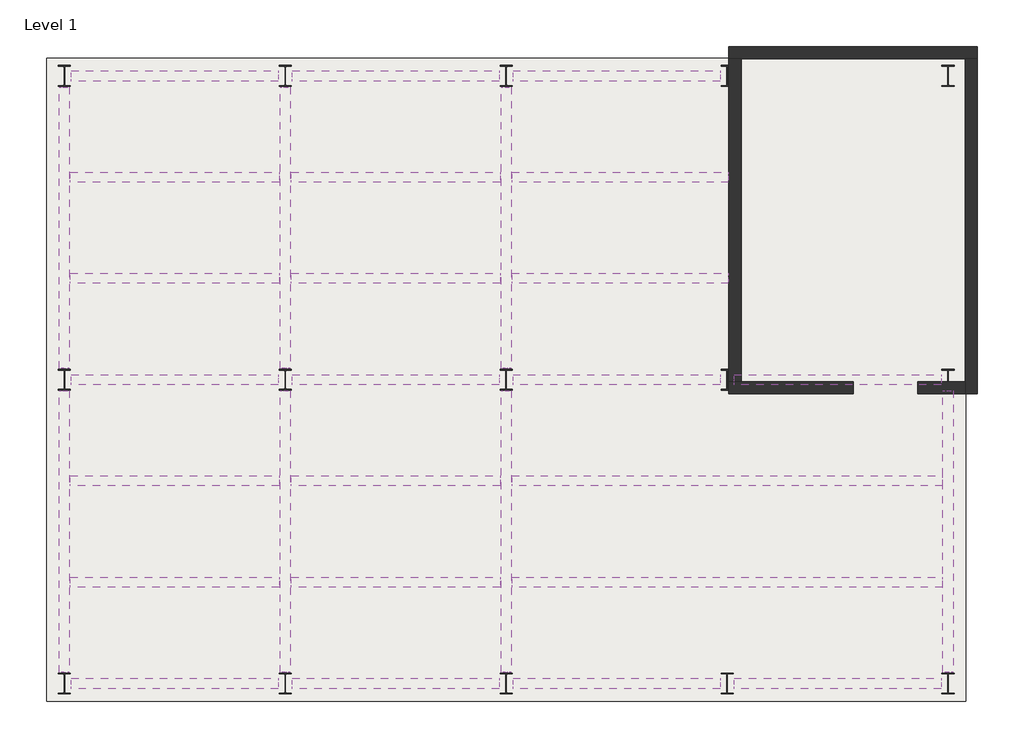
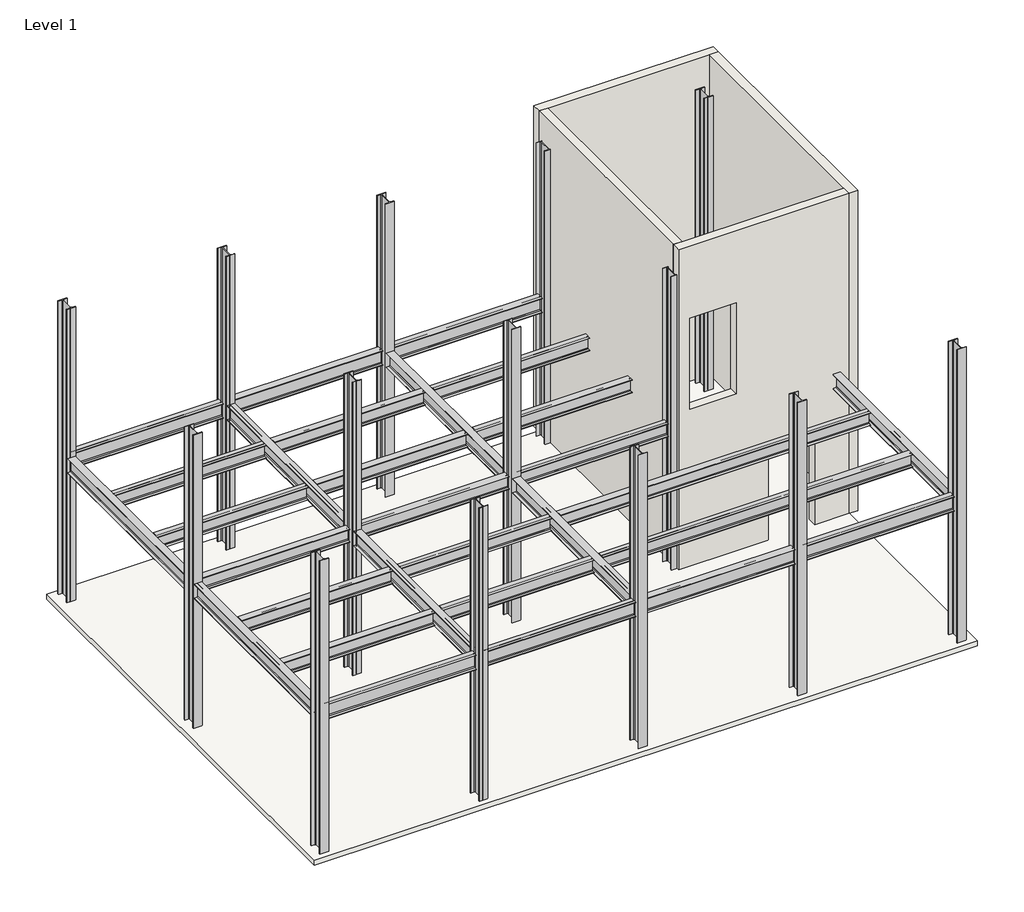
# One storey: 30 beams, 15 columns, 4 walls, 1 slab.
"""IFC4 building model written with IfcOpenShell, lengths in millimetres."""

from ifc_helpers import new_model, si_unit, frame, origin, origin_with_axes, place, context, project, spatial, polyline, outline, extrude, faceted_brep, transform, mapped, element, save
from components import w_wide_flange_w12x26_56e9a040, w_wide_flange_w12x26_53716e72, w_wide_flange_w12x26_8e34c184, w_wide_flange_w12x26_9ce355fa, w_wide_flange_w12x26_2a9d9cf0, w_wide_flange_w14x30_8274a343, w_wide_flange_w14x30_860b21b5, w_wide_flange_column_w14x43_c17b279d

model = new_model("IFC4")

# Units and contexts
model_context = context("Model", 3, world=origin())
ifc_project = project(units=[si_unit("LENGTHUNIT", "METRE", prefix="MILLI")], contexts=[model_context])

# Site, building, storey
site = spatial("IfcSite", under=ifc_project)
building = spatial("IfcBuilding", under=site)
storey = spatial("IfcBuildingStorey", under=building, Name="Level 1", Elevation=0.0)

# Beams
placement = place(None, origin())
w_wide_flange_w12x26_shape = w_wide_flange_w12x26_56e9a040(model_context)
element("IfcBeam", 1, ObjectType="W-Wide Flange : W12X26", at=placement, inside=storey, context=model_context, shape_type="MappedRepresentation", body=[
    mapped(w_wide_flange_w12x26_shape, transform((4244.4101113, 7073.2928451, 3350.021875), x_axis=(1.0, 0.0, 0.0), y_axis=(0.0, 1.0, 0.0), z_axis=(0.0, 0.0, 1.0))),
])
element("IfcBeam", 2, ObjectType="W-Wide Flange : W12X26", at=placement, inside=storey, context=model_context, shape_type="MappedRepresentation", body=[
    mapped(w_wide_flange_w12x26_shape, transform((4244.4101113, 5396.8928451, 3350.021875), x_axis=(1.0, 0.0, 0.0), y_axis=(0.0, 1.0, 0.0), z_axis=(0.0, 0.0, 1.0))),
])
element("IfcBeam", 3, ObjectType="W-Wide Flange : W12X26", at=placement, inside=storey, context=model_context, shape_type="MappedRepresentation", body=[
    mapped(w_wide_flange_w12x26_shape, transform((4244.4101113, 2044.0928451, 3350.021875), x_axis=(1.0, 0.0, 0.0), y_axis=(0.0, 1.0, 0.0), z_axis=(0.0, 0.0, 1.0))),
])
element("IfcBeam", 4, ObjectType="W-Wide Flange : W12X26", at=placement, inside=storey, context=model_context, shape_type="MappedRepresentation", body=[
    mapped(w_wide_flange_w12x26_shape, transform((4244.4101113, 367.6928451, 3350.021875), x_axis=(1.0, 0.0, 0.0), y_axis=(0.0, 1.0, 0.0), z_axis=(0.0, 0.0, 1.0))),
])
element("IfcBeam", 5, ObjectType="W-Wide Flange : W12X26", at=placement, inside=storey, context=model_context, shape_type="MappedRepresentation", body=[
    mapped(w_wide_flange_w12x26_shape, transform((586.8101113, 7073.2928451, 3350.021875), x_axis=(1.0, 0.0, 0.0), y_axis=(0.0, 1.0, 0.0), z_axis=(0.0, 0.0, 1.0))),
])
element("IfcBeam", 6, ObjectType="W-Wide Flange : W12X26", at=placement, inside=storey, context=model_context, shape_type="MappedRepresentation", body=[
    mapped(w_wide_flange_w12x26_shape, transform((586.8101113, 5396.8928451, 3350.021875), x_axis=(1.0, 0.0, 0.0), y_axis=(0.0, 1.0, 0.0), z_axis=(0.0, 0.0, 1.0))),
])
element("IfcBeam", 7, ObjectType="W-Wide Flange : W12X26", at=placement, inside=storey, context=model_context, shape_type="MappedRepresentation", body=[
    mapped(w_wide_flange_w12x26_shape, transform((586.8101113, 2044.0928451, 3350.021875), x_axis=(1.0, 0.0, 0.0), y_axis=(0.0, 1.0, 0.0), z_axis=(0.0, 0.0, 1.0))),
])
element("IfcBeam", 8, ObjectType="W-Wide Flange : W12X26", at=placement, inside=storey, context=model_context, shape_type="MappedRepresentation", body=[
    mapped(w_wide_flange_w12x26_shape, transform((586.8101113, 367.6928451, 3350.021875), x_axis=(1.0, 0.0, 0.0), y_axis=(0.0, 1.0, 0.0), z_axis=(0.0, 0.0, 1.0))),
])
w_wide_flange_w12x26_2_shape = w_wide_flange_w12x26_53716e72(model_context)
element("IfcBeam", 9, ObjectType="W-Wide Flange : W12X26", at=placement, inside=storey, context=model_context, shape_type="MappedRepresentation", body=[
    mapped(w_wide_flange_w12x26_2_shape, transform((4244.4101113, 3720.4928451, 3350.021875), x_axis=(1.0, 0.0, 0.0), y_axis=(0.0, 1.0, 0.0), z_axis=(0.0, 0.0, 1.0))),
])
element("IfcBeam", 10, ObjectType="W-Wide Flange : W12X26", at=placement, inside=storey, context=model_context, shape_type="MappedRepresentation", body=[
    mapped(w_wide_flange_w12x26_2_shape, transform((586.8101113, 3720.4928451, 3350.021875), x_axis=(1.0, 0.0, 0.0), y_axis=(0.0, 1.0, 0.0), z_axis=(0.0, 0.0, 1.0))),
])
w_wide_flange_w12x26_3_shape = w_wide_flange_w12x26_8e34c184(model_context)
element("IfcBeam", 11, ObjectType="W-Wide Flange : W12X26", at=placement, inside=storey, context=model_context, shape_type="MappedRepresentation", body=[
    mapped(w_wide_flange_w12x26_3_shape, transform((7967.8913613, 7073.2928451, 3350.021875), x_axis=(1.0, 0.0, 0.0), y_axis=(0.0, 1.0, 0.0), z_axis=(0.0, 0.0, 1.0))),
])
element("IfcBeam", 12, ObjectType="W-Wide Flange : W12X26", at=placement, inside=storey, context=model_context, shape_type="MappedRepresentation", body=[
    mapped(w_wide_flange_w12x26_3_shape, transform((7967.8913613, 5396.8928451, 3350.021875), x_axis=(1.0, 0.0, 0.0), y_axis=(0.0, 1.0, 0.0), z_axis=(0.0, 0.0, 1.0))),
])
w_wide_flange_w12x26_4_shape = w_wide_flange_w12x26_9ce355fa(model_context)
element("IfcBeam", 13, ObjectType="W-Wide Flange : W12X26", at=placement, inside=storey, context=model_context, shape_type="MappedRepresentation", body=[
    mapped(w_wide_flange_w12x26_4_shape, transform((7967.8913613, 3720.4928451, 3350.021875), x_axis=(1.0, 0.0, 0.0), y_axis=(0.0, 1.0, 0.0), z_axis=(0.0, 0.0, 1.0))),
])
w_wide_flange_w12x26_5_shape = w_wide_flange_w12x26_2a9d9cf0(model_context)
element("IfcBeam", 14, ObjectType="W-Wide Flange : W12X26", at=placement, inside=storey, context=model_context, shape_type="MappedRepresentation", body=[
    mapped(w_wide_flange_w12x26_5_shape, transform((9730.8101113, 2044.0928451, 3350.021875), x_axis=(1.0, 0.0, 0.0), y_axis=(0.0, 1.0, 0.0), z_axis=(0.0, 0.0, 1.0))),
])
element("IfcBeam", 15, ObjectType="W-Wide Flange : W12X26", at=placement, inside=storey, context=model_context, shape_type="MappedRepresentation", body=[
    mapped(w_wide_flange_w12x26_5_shape, transform((9730.8101113, 367.6928451, 3350.021875), x_axis=(1.0, 0.0, 0.0), y_axis=(0.0, 1.0, 0.0), z_axis=(0.0, 0.0, 1.0))),
])
w_wide_flange_w14x30_shape = w_wide_flange_w14x30_8274a343(model_context)
element("IfcBeam", 16, ObjectType="W-Wide Flange : W14X30", at=placement, inside=storey, context=model_context, shape_type="MappedRepresentation", body=[
    mapped(w_wide_flange_w14x30_shape, transform((4244.4101113, 8749.6928451, 3329.4339844), x_axis=(1.0, 0.0, 0.0), y_axis=(0.0, 1.0, 0.0), z_axis=(0.0, 0.0, 1.0))),
])
element("IfcBeam", 17, ObjectType="W-Wide Flange : W14X30", at=placement, inside=storey, context=model_context, shape_type="MappedRepresentation", body=[
    mapped(w_wide_flange_w14x30_shape, transform((7902.0101113, 8749.6928451, 3329.4339844), x_axis=(1.0, 0.0, 0.0), y_axis=(0.0, 1.0, 0.0), z_axis=(0.0, 0.0, 1.0))),
])
element("IfcBeam", 18, ObjectType="W-Wide Flange : W14X30", at=placement, inside=storey, context=model_context, shape_type="MappedRepresentation", body=[
    mapped(w_wide_flange_w14x30_shape, transform((4244.4101113, -1308.7071549, 3329.4339844), x_axis=(1.0, 0.0, 0.0), y_axis=(0.0, 1.0, 0.0), z_axis=(0.0, 0.0, 1.0))),
])
element("IfcBeam", 19, ObjectType="W-Wide Flange : W14X30", at=placement, inside=storey, context=model_context, shape_type="MappedRepresentation", body=[
    mapped(w_wide_flange_w14x30_shape, transform((7902.0101113, -1308.7071549, 3329.4339844), x_axis=(1.0, 0.0, 0.0), y_axis=(0.0, 1.0, 0.0), z_axis=(0.0, 0.0, 1.0))),
])
element("IfcBeam", 20, ObjectType="W-Wide Flange : W14X30", at=placement, inside=storey, context=model_context, shape_type="MappedRepresentation", body=[
    mapped(w_wide_flange_w14x30_shape, transform((11559.6101113, -1308.7071549, 3329.4339844), x_axis=(1.0, 0.0, 0.0), y_axis=(0.0, 1.0, 0.0), z_axis=(0.0, 0.0, 1.0))),
])
element("IfcBeam", 21, ObjectType="W-Wide Flange : W14X30", at=placement, inside=storey, context=model_context, shape_type="MappedRepresentation", body=[
    mapped(w_wide_flange_w14x30_shape, transform((11559.6101113, 3720.4928451, 3329.4339844), x_axis=(-1.0, 0.0, 0.0), y_axis=(0.0, -1.0, 0.0), z_axis=(0.0, 0.0, 1.0))),
])
element("IfcBeam", 22, ObjectType="W-Wide Flange : W14X30", at=placement, inside=storey, context=model_context, shape_type="MappedRepresentation", body=[
    mapped(w_wide_flange_w14x30_shape, transform((586.8101113, 8749.6928451, 3329.4339844), x_axis=(1.0, 0.0, 0.0), y_axis=(0.0, 1.0, 0.0), z_axis=(0.0, 0.0, 1.0))),
])
element("IfcBeam", 23, ObjectType="W-Wide Flange : W14X30", at=placement, inside=storey, context=model_context, shape_type="MappedRepresentation", body=[
    mapped(w_wide_flange_w14x30_shape, transform((586.8101113, -1308.7071549, 3329.4339844), x_axis=(-1.0, 0.0, 0.0), y_axis=(0.0, -1.0, 0.0), z_axis=(0.0, 0.0, 1.0))),
])
w_wide_flange_w14x30_2_shape = w_wide_flange_w14x30_860b21b5(model_context)
element("IfcBeam", 24, ObjectType="W-Wide Flange : W14X30", at=placement, inside=storey, context=model_context, shape_type="MappedRepresentation", body=[
    mapped(w_wide_flange_w14x30_2_shape, transform((6073.2101113, 6235.0928451, 3329.4339844), x_axis=(0.0, -1.0, 0.0), y_axis=(1.0, 0.0, 0.0), z_axis=(0.0, 0.0, 1.0))),
])
element("IfcBeam", 25, ObjectType="W-Wide Flange : W14X30", at=placement, inside=storey, context=model_context, shape_type="MappedRepresentation", body=[
    mapped(w_wide_flange_w14x30_2_shape, transform((6073.2101113, 1205.8928451, 3329.4339844), x_axis=(0.0, -1.0, 0.0), y_axis=(1.0, 0.0, 0.0), z_axis=(0.0, 0.0, 1.0))),
])
element("IfcBeam", 26, ObjectType="W-Wide Flange : W14X30", at=placement, inside=storey, context=model_context, shape_type="MappedRepresentation", body=[
    mapped(w_wide_flange_w14x30_2_shape, transform((13388.4101113, 1205.8928451, 3329.4339844), x_axis=(0.0, 1.0, 0.0), y_axis=(-1.0, 0.0, 0.0), z_axis=(0.0, 0.0, 1.0))),
])
element("IfcBeam", 27, ObjectType="W-Wide Flange : W14X30", at=placement, inside=storey, context=model_context, shape_type="MappedRepresentation", body=[
    mapped(w_wide_flange_w14x30_2_shape, transform((2415.6101113, 6235.0928451, 3329.4339844), x_axis=(0.0, -1.0, 0.0), y_axis=(1.0, 0.0, 0.0), z_axis=(0.0, 0.0, 1.0))),
])
element("IfcBeam", 28, ObjectType="W-Wide Flange : W14X30", at=placement, inside=storey, context=model_context, shape_type="MappedRepresentation", body=[
    mapped(w_wide_flange_w14x30_2_shape, transform((2415.6101113, 1205.8928451, 3329.4339844), x_axis=(0.0, -1.0, 0.0), y_axis=(1.0, 0.0, 0.0), z_axis=(0.0, 0.0, 1.0))),
])
element("IfcBeam", 29, ObjectType="W-Wide Flange : W14X30", at=placement, inside=storey, context=model_context, shape_type="MappedRepresentation", body=[
    mapped(w_wide_flange_w14x30_2_shape, transform((-1241.9898887, 1205.8928451, 3329.4339844), x_axis=(0.0, 1.0, 0.0), y_axis=(-1.0, 0.0, 0.0), z_axis=(0.0, 0.0, 1.0))),
])
element("IfcBeam", 30, ObjectType="W-Wide Flange : W14X30", at=placement, inside=storey, context=model_context, shape_type="MappedRepresentation", body=[
    mapped(w_wide_flange_w14x30_2_shape, transform((-1241.9898887, 6235.0928451, 3329.4339844), x_axis=(0.0, 1.0, 0.0), y_axis=(-1.0, 0.0, 0.0), z_axis=(0.0, 0.0, 1.0))),
])

# Columns
w_wide_flange_column_w14x43_shape = w_wide_flange_column_w14x43_c17b279d(model_context)
element("IfcColumn", 31, ObjectType="W-Wide Flange-Column : W14X43", at=placement, inside=storey, context=model_context, shape_type="MappedRepresentation", body=[
    mapped(w_wide_flange_column_w14x43_shape, transform((-1241.9898887, 8749.6928451, 0.0), x_axis=(1.0, 0.0, 0.0), y_axis=(0.0, 1.0, 0.0), z_axis=(0.0, 0.0, 1.0))),
])
element("IfcColumn", 32, ObjectType="W-Wide Flange-Column : W14X43", at=placement, inside=storey, context=model_context, shape_type="MappedRepresentation", body=[
    mapped(w_wide_flange_column_w14x43_shape, transform((2415.6101113, 8749.6928451, 0.0), x_axis=(1.0, 0.0, 0.0), y_axis=(0.0, 1.0, 0.0), z_axis=(0.0, 0.0, 1.0))),
])
element("IfcColumn", 33, ObjectType="W-Wide Flange-Column : W14X43", at=placement, inside=storey, context=model_context, shape_type="MappedRepresentation", body=[
    mapped(w_wide_flange_column_w14x43_shape, transform((6073.2101113, 8749.6928451, 0.0), x_axis=(1.0, 0.0, 0.0), y_axis=(0.0, 1.0, 0.0), z_axis=(0.0, 0.0, 1.0))),
])
element("IfcColumn", 34, ObjectType="W-Wide Flange-Column : W14X43", at=placement, inside=storey, context=model_context, shape_type="MappedRepresentation", body=[
    mapped(w_wide_flange_column_w14x43_shape, transform((9730.8101113, 8749.6928451, 0.0), x_axis=(1.0, 0.0, 0.0), y_axis=(0.0, 1.0, 0.0), z_axis=(0.0, 0.0, 1.0))),
])
element("IfcColumn", 35, ObjectType="W-Wide Flange-Column : W14X43", at=placement, inside=storey, context=model_context, shape_type="MappedRepresentation", body=[
    mapped(w_wide_flange_column_w14x43_shape, transform((13388.4101113, 8749.6928451, 0.0), x_axis=(1.0, 0.0, 0.0), y_axis=(0.0, 1.0, 0.0), z_axis=(0.0, 0.0, 1.0))),
])
element("IfcColumn", 36, ObjectType="W-Wide Flange-Column : W14X43", at=placement, inside=storey, context=model_context, shape_type="MappedRepresentation", body=[
    mapped(w_wide_flange_column_w14x43_shape, transform((13388.4101113, 3720.4928451, 0.0), x_axis=(1.0, 0.0, 0.0), y_axis=(0.0, 1.0, 0.0), z_axis=(0.0, 0.0, 1.0))),
])
element("IfcColumn", 37, ObjectType="W-Wide Flange-Column : W14X43", at=placement, inside=storey, context=model_context, shape_type="MappedRepresentation", body=[
    mapped(w_wide_flange_column_w14x43_shape, transform((9730.8101113, 3720.4928451, 0.0), x_axis=(1.0, 0.0, 0.0), y_axis=(0.0, 1.0, 0.0), z_axis=(0.0, 0.0, 1.0))),
])
element("IfcColumn", 38, ObjectType="W-Wide Flange-Column : W14X43", at=placement, inside=storey, context=model_context, shape_type="MappedRepresentation", body=[
    mapped(w_wide_flange_column_w14x43_shape, transform((6073.2101113, 3720.4928451, 0.0), x_axis=(1.0, 0.0, 0.0), y_axis=(0.0, 1.0, 0.0), z_axis=(0.0, 0.0, 1.0))),
])
element("IfcColumn", 39, ObjectType="W-Wide Flange-Column : W14X43", at=placement, inside=storey, context=model_context, shape_type="MappedRepresentation", body=[
    mapped(w_wide_flange_column_w14x43_shape, transform((2415.6101113, 3720.4928451, 0.0), x_axis=(1.0, 0.0, 0.0), y_axis=(0.0, 1.0, 0.0), z_axis=(0.0, 0.0, 1.0))),
])
element("IfcColumn", 40, ObjectType="W-Wide Flange-Column : W14X43", at=placement, inside=storey, context=model_context, shape_type="MappedRepresentation", body=[
    mapped(w_wide_flange_column_w14x43_shape, transform((-1241.9898887, -1308.7071549, 0.0), x_axis=(1.0, 0.0, 0.0), y_axis=(0.0, 1.0, 0.0), z_axis=(0.0, 0.0, 1.0))),
])
element("IfcColumn", 41, ObjectType="W-Wide Flange-Column : W14X43", at=placement, inside=storey, context=model_context, shape_type="MappedRepresentation", body=[
    mapped(w_wide_flange_column_w14x43_shape, transform((2415.6101113, -1308.7071549, 0.0), x_axis=(1.0, 0.0, 0.0), y_axis=(0.0, 1.0, 0.0), z_axis=(0.0, 0.0, 1.0))),
])
element("IfcColumn", 42, ObjectType="W-Wide Flange-Column : W14X43", at=placement, inside=storey, context=model_context, shape_type="MappedRepresentation", body=[
    mapped(w_wide_flange_column_w14x43_shape, transform((6073.2101113, -1308.7071549, 0.0), x_axis=(1.0, 0.0, 0.0), y_axis=(0.0, 1.0, 0.0), z_axis=(0.0, 0.0, 1.0))),
])
element("IfcColumn", 43, ObjectType="W-Wide Flange-Column : W14X43", at=placement, inside=storey, context=model_context, shape_type="MappedRepresentation", body=[
    mapped(w_wide_flange_column_w14x43_shape, transform((13388.4101113, -1308.7071549, 0.0), x_axis=(1.0, 0.0, 0.0), y_axis=(0.0, 1.0, 0.0), z_axis=(0.0, 0.0, 1.0))),
])
element("IfcColumn", 44, ObjectType="W-Wide Flange-Column : W14X43", at=placement, inside=storey, context=model_context, shape_type="MappedRepresentation", body=[
    mapped(w_wide_flange_column_w14x43_shape, transform((9730.8101113, -1308.7071549, 0.0), x_axis=(1.0, 0.0, 0.0), y_axis=(0.0, 1.0, 0.0), z_axis=(0.0, 0.0, 1.0))),
])
element("IfcColumn", 45, ObjectType="W-Wide Flange-Column : W14X43", at=placement, inside=storey, context=model_context, shape_type="MappedRepresentation", body=[
    mapped(w_wide_flange_column_w14x43_shape, transform((-1241.9898887, 3720.4928451, 0.0), x_axis=(1.0, 0.0, 0.0), y_axis=(0.0, 1.0, 0.0), z_axis=(0.0, 0.0, 1.0))),
])

# Slab
element("IfcSlab", 46, ObjectType="3\" LW Concrete on 2\" Metal Deck 2010 upgrade", at=placement, inside=storey, context=model_context, shape_type="SweptSolid", body=[
    extrude(outline(polyline([(13682.0976113, -1602.3946549), (-1535.6773887, -1602.3946549), (-1535.6773887, 9043.3803451), (13682.0976113, 9043.3803451), (13682.0976113, -1602.3946549)])), frame((0.0, 0.0, -127.0), z_axis=(0.0, 0.0, 1.0), x_axis=(1.0, 0.0, 0.0)), (0.0, 0.0, 1.0), 127.0),
])

# Walls
element("IfcWall", 47, ObjectType="Exterior - 8\" Concrete", at=placement, inside=storey, context=model_context, shape_type="Brep", body=[
    faceted_brep([(13874.1851113, 9235.4678451, 0.0), (9760.9726113, 9235.4678451, 0.0), (9760.9726113, 9235.4678451, 7772.4), (13874.1851113, 9235.4678451, 7772.4), (13874.1851113, 9032.2678451, 0.0), (13874.1851113, 9032.2678451, 7772.4), (13670.9851113, 9032.2678451, 7772.4), (9964.1726113, 9032.2678451, 7772.4), (9760.9726113, 9032.2678451, 7772.4), (9760.9726113, 9032.2678451, 0.0), (9964.1726113, 9032.2678451, 0.0), (13670.9851113, 9032.2678451, 0.0)], [[[0, 1, 2, 3]], [[4, 5, 6, 7, 8, 9, 10, 11]], [[1, 0, 4, 11, 10, 9]], [[3, 2, 8, 7, 6, 5]], [[2, 1, 9, 8]], [[0, 3, 5, 4]]]),
])
element("IfcWall", 48, ObjectType="Exterior - 8\" Concrete", at=placement, inside=storey, context=model_context, shape_type="SweptSolid", body=[
    extrude(outline(polyline([(9964.1726113, 9032.2678451), (9964.1726113, 3690.3303451), (9760.9726113, 3690.3303451), (9760.9726113, 9032.2678451), (9964.1726113, 9032.2678451)])), origin_with_axes(), (0.0, 0.0, 1.0), 7772.4),
])
element("IfcWall", 49, ObjectType="Exterior - 8\" Concrete", at=placement, inside=storey, context=model_context, shape_type="Brep", body=[
    faceted_brep([(13874.1851113, 3487.1303451, 0.0), (13874.1851113, 9032.2678451, 0.0), (13874.1851113, 9032.2678451, 7772.4), (13874.1851113, 3487.1303451, 7772.4), (13670.9851113, 3487.1303451, 0.0), (13670.9851113, 3487.1303451, 7772.4), (13670.9851113, 3690.3303451, 7772.4), (13670.9851113, 9032.2678451, 7772.4), (13670.9851113, 9032.2678451, 0.0), (13670.9851113, 3690.3303451, 0.0)], [[[0, 1, 2, 3]], [[4, 5, 6, 7, 8, 9]], [[1, 0, 4, 9, 8]], [[3, 2, 7, 6, 5]], [[0, 3, 5, 4]], [[2, 1, 8, 7]]]),
])
element("IfcWall", 50, ObjectType="Exterior - 8\" Concrete", at=placement, inside=storey, context=model_context, shape_type="Brep", body=[
    faceted_brep([(9760.9726113, 3690.3303451, 0.0), (9760.9726113, 3690.3303451, 7772.4), (9964.1726113, 3690.3303451, 7772.4), (13670.9851113, 3690.3303451, 7772.4), (13670.9851113, 3690.3303451, 0.0), (12881.9976113, 3690.3303451, 0.0), (12881.9976113, 3690.3303451, 2209.8), (11815.1976113, 3690.3303451, 2209.8), (11815.1976113, 3690.3303451, 0.0), (9964.1726113, 3690.3303451, 0.0), (11081.7726113, 3690.3303451, 6019.8), (10014.9726113, 3690.3303451, 6019.8), (10014.9726113, 3690.3303451, 3810.0), (11081.7726113, 3690.3303451, 3810.0), (9760.9726113, 3487.1303451, 7772.4), (9760.9726113, 3487.1303451, 0.0), (11815.1976113, 3487.1303451, 0.0), (11815.1976113, 3487.1303451, 2209.8), (12881.9976113, 3487.1303451, 2209.8), (12881.9976113, 3487.1303451, 0.0), (13670.9851113, 3487.1303451, 0.0), (13670.9851113, 3487.1303451, 7772.4), (10014.9726113, 3487.1303451, 6019.8), (11081.7726113, 3487.1303451, 6019.8), (11081.7726113, 3487.1303451, 3810.0), (10014.9726113, 3487.1303451, 3810.0)], [[[0, 1, 2, 3, 4, 5, 6, 7, 8, 9], [10, 11, 12, 13]], [[14, 15, 16, 17, 18, 19, 20, 21], [22, 23, 24, 25]], [[15, 0, 9, 8, 16]], [[4, 20, 19, 5]], [[3, 2, 1, 14, 21]], [[6, 18, 17, 7]], [[18, 6, 5, 19]], [[7, 17, 16, 8]], [[10, 23, 22, 11]], [[12, 25, 24, 13]], [[23, 10, 13, 24]], [[11, 22, 25, 12]], [[1, 0, 15, 14]], [[4, 3, 21, 20]]]),
])

save(model, "model.ifc")
